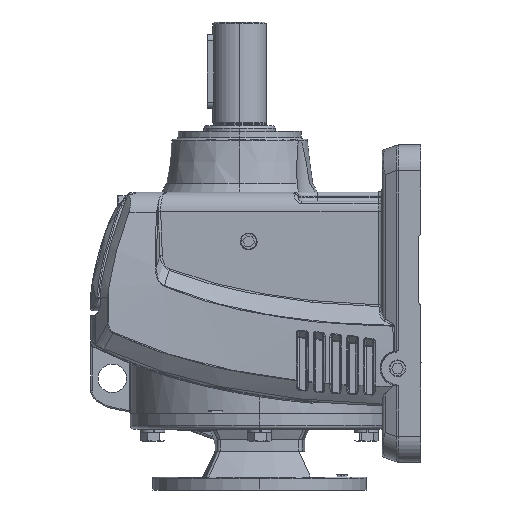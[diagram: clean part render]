
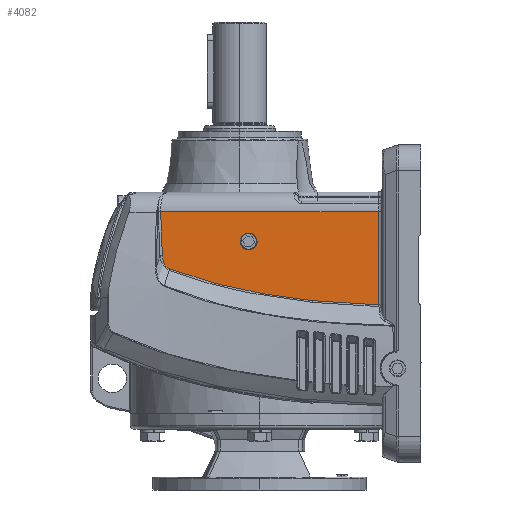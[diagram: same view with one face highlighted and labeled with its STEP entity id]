
A CAD part, left-side view. The second image highlights one B-rep face of the part: STEP entity #4082.
In plain terms, the highlighted planar face has unit normal (-1, 0, 0).
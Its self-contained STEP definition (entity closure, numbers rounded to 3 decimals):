
#4082 = ADVANCED_FACE ( 'NONE', ( #57099, #57084 ), #43669, .T. ) ;
#4805 = CARTESIAN_POINT ( 'NONE',  ( -100., 198.045, -54.652 ) ) ;
#4806 = CARTESIAN_POINT ( 'NONE',  ( -100., 37., -82.481 ) ) ;
#4965 = CARTESIAN_POINT ( 'NONE',  ( -100., 203.682, -44.307 ) ) ;
#4998 = CARTESIAN_POINT ( 'NONE',  ( -100., 87.405, -79.257 ) ) ;
#5033 = CARTESIAN_POINT ( 'NONE',  ( -100., 137., -27.256 ) ) ;
#8129 = EDGE_CURVE ( 'NONE', #10191, #10423, #30689, .T. ) ;
#8949 = EDGE_CURVE ( 'NONE', #10752, #11105, #49633, .T. ) ;
#8957 = EDGE_CURVE ( 'NONE', #53436, #11108, #49637, .T. ) ;
#9046 = EDGE_CURVE ( 'NONE', #11108, #11110, #49667, .T. ) ;
#9080 = EDGE_CURVE ( 'NONE', #11110, #10752, #49677, .T. ) ;
#10191 = VERTEX_POINT ( 'NONE', #12052 ) ;
#10423 = VERTEX_POINT ( 'NONE', #5033 ) ;
#10752 = VERTEX_POINT ( 'NONE', #4998 ) ;
#11105 = VERTEX_POINT ( 'NONE', #4806 ) ;
#11108 = VERTEX_POINT ( 'NONE', #4965 ) ;
#11110 = VERTEX_POINT ( 'NONE', #4805 ) ;
#12052 = CARTESIAN_POINT ( 'NONE',  ( -100., 137., -39.744 ) ) ;
#12944 = CARTESIAN_POINT ( 'NONE',  ( -100., 161.971, -66.19 ) ) ;
#13055 = CARTESIAN_POINT ( 'NONE',  ( -100., 198.045, -54.652 ) ) ;
#13056 = CARTESIAN_POINT ( 'NONE',  ( -100., 198.535, -54.461 ) ) ;
#13076 = CARTESIAN_POINT ( 'NONE',  ( -100., 203.682, -44.307 ) ) ;
#13079 = CARTESIAN_POINT ( 'NONE',  ( -100., 202.756, -49.376 ) ) ;
#13080 = CARTESIAN_POINT ( 'NONE',  ( -100., 203.079, -48.387 ) ) ;
#13081 = CARTESIAN_POINT ( 'NONE',  ( -100., 203.212, -47.887 ) ) ;
#13082 = CARTESIAN_POINT ( 'NONE',  ( -100., 203.533, -46.375 ) ) ;
#13083 = CARTESIAN_POINT ( 'NONE',  ( -100., 203.649, -45.348 ) ) ;
#13084 = CARTESIAN_POINT ( 'NONE',  ( -100., 201.284, -52.115 ) ) ;
#13085 = CARTESIAN_POINT ( 'NONE',  ( -100., 201.438, -51.903 ) ) ;
#13086 = CARTESIAN_POINT ( 'NONE',  ( -100., 201.871, -51.253 ) ) ;
#13087 = CARTESIAN_POINT ( 'NONE',  ( -100., 202.123, -50.801 ) ) ;
#13088 = CARTESIAN_POINT ( 'NONE',  ( -100., 202.565, -49.863 ) ) ;
#13089 = CARTESIAN_POINT ( 'NONE',  ( -100., 198.995, -54.215 ) ) ;
#13090 = CARTESIAN_POINT ( 'NONE',  ( -100., 199.86, -53.62 ) ) ;
#13091 = CARTESIAN_POINT ( 'NONE',  ( -100., 200.252, -53.281 ) ) ;
#13092 = CARTESIAN_POINT ( 'NONE',  ( -100., 200.789, -52.719 ) ) ;
#13093 = CARTESIAN_POINT ( 'NONE',  ( -100., 200.959, -52.523 ) ) ;
#13374 = CARTESIAN_POINT ( 'NONE',  ( -100., 87.405, -79.257 ) ) ;
#13563 = CARTESIAN_POINT ( 'NONE',  ( -100., 148.144, -69.531 ) ) ;
#13565 = CARTESIAN_POINT ( 'NONE',  ( -100., 152.767, -68.471 ) ) ;
#13572 = CARTESIAN_POINT ( 'NONE',  ( -100., 87.405, -79.257 ) ) ;
#13575 = CARTESIAN_POINT ( 'NONE',  ( -100., 79.026, -80.13 ) ) ;
#13577 = CARTESIAN_POINT ( 'NONE',  ( -100., 70.635, -80.826 ) ) ;
#13579 = CARTESIAN_POINT ( 'NONE',  ( -100., 53.831, -81.862 ) ) ;
#13580 = CARTESIAN_POINT ( 'NONE',  ( -100., 58.034, -81.633 ) ) ;
#13582 = CARTESIAN_POINT ( 'NONE',  ( -100., 41.211, -82.377 ) ) ;
#13585 = CARTESIAN_POINT ( 'NONE',  ( -100., 45.419, -82.234 ) ) ;
#13590 = CARTESIAN_POINT ( 'NONE',  ( -100., 47.523, -82.148 ) ) ;
#13591 = CARTESIAN_POINT ( 'NONE',  ( -100., 39.106, -82.435 ) ) ;
#13597 = CARTESIAN_POINT ( 'NONE',  ( -100., 166.549, -64.972 ) ) ;
#13601 = CARTESIAN_POINT ( 'NONE',  ( -100., 37., -82.481 ) ) ;
#13617 = CARTESIAN_POINT ( 'NONE',  ( -100., 203.682, -44.307 ) ) ;
#13619 = CARTESIAN_POINT ( 'NONE',  ( -100., 204.04, -33.035 ) ) ;
#13621 = CARTESIAN_POINT ( 'NONE',  ( -100., 204.477, -21.766 ) ) ;
#13622 = CARTESIAN_POINT ( 'NONE',  ( -100., 204.975, -10.5 ) ) ;
#13709 = CARTESIAN_POINT ( 'NONE',  ( -100., 175.651, -62.358 ) ) ;
#13712 = CARTESIAN_POINT ( 'NONE',  ( -100., 180.175, -60.964 ) ) ;
#13713 = CARTESIAN_POINT ( 'NONE',  ( -100., 189.16, -57.971 ) ) ;
#13714 = CARTESIAN_POINT ( 'NONE',  ( -100., 193.622, -56.374 ) ) ;
#13716 = CARTESIAN_POINT ( 'NONE',  ( -100., 198.045, -54.652 ) ) ;
#13764 = CARTESIAN_POINT ( 'NONE',  ( -100., 96.835, -78.274 ) ) ;
#13765 = CARTESIAN_POINT ( 'NONE',  ( -100., 106.229, -77.07 ) ) ;
#13766 = CARTESIAN_POINT ( 'NONE',  ( -100., 120.258, -74.902 ) ) ;
#13767 = CARTESIAN_POINT ( 'NONE',  ( -100., 124.924, -74.118 ) ) ;
#13768 = CARTESIAN_POINT ( 'NONE',  ( -100., 134.235, -72.42 ) ) ;
#13772 = CARTESIAN_POINT ( 'NONE',  ( -100., 138.88, -71.506 ) ) ;
#14246 = CARTESIAN_POINT ( 'NONE',  ( -100., 204.975, -10.5 ) ) ;
#14346 = CARTESIAN_POINT ( 'NONE',  ( -100., 37., -10.5 ) ) ;
#18407 = CARTESIAN_POINT ( 'NONE',  ( -100., 4.772, -10.5 ) ) ;
#18408 = DIRECTION ( 'NONE',  ( 0., 1., 0. ) ) ;
#20420 = DIRECTION ( 'NONE',  ( 0., 0., 1. ) ) ;
#20421 = DIRECTION ( 'NONE',  ( -1., 0., 0. ) ) ;
#20423 = CARTESIAN_POINT ( 'NONE',  ( -100., 137., -33.5 ) ) ;
#29065 = EDGE_LOOP ( 'NONE', ( #53699, #53697, #53704, #53682, #53701, #53692 ) ) ;
#29429 = EDGE_LOOP ( 'NONE', ( #53694, #53702 ) ) ;
#30262 = VECTOR ( 'NONE', #18408, 1000. ) ;
#30689 = CIRCLE ( 'NONE', #30699, 6.244 ) ;
#30699 = AXIS2_PLACEMENT_3D ( 'NONE', #20423, #20421, #20420 ) ;
#33487 = AXIS2_PLACEMENT_3D ( 'NONE', #44539, #43674, #44540 ) ;
#39842 = LINE ( 'NONE', #44959, #52967 ) ;
#40783 = LINE ( 'NONE', #18407, #30262 ) ;
#42024 = EDGE_CURVE ( 'NONE', #11105, #53715, #39842, .T. ) ;
#42071 = EDGE_CURVE ( 'NONE', #10423, #10191, #52954, .T. ) ;
#43669 = PLANE ( 'NONE',  #33487 ) ;
#43674 = DIRECTION ( 'NONE',  ( -1., 0., 0. ) ) ;
#44539 = CARTESIAN_POINT ( 'NONE',  ( -100., 4.772, -95.607 ) ) ;
#44540 = DIRECTION ( 'NONE',  ( 0., 0., 1. ) ) ;
#44949 = DIRECTION ( 'NONE',  ( 0., 0., 1. ) ) ;
#44959 = CARTESIAN_POINT ( 'NONE',  ( -100., 37., -95.607 ) ) ;
#45101 = CARTESIAN_POINT ( 'NONE',  ( -100., 137., -33.5 ) ) ;
#45103 = DIRECTION ( 'NONE',  ( -1., 0., 0. ) ) ;
#45105 = DIRECTION ( 'NONE',  ( 0., 0., 1. ) ) ;
#49633 = B_SPLINE_CURVE_WITH_KNOTS ( 'NONE', 3,
 ( #13572, #13575, #13577, #13580, #13579, #13590, #13585, #13582, #13591, #13601 ),
 .UNSPECIFIED., .F., .F.,
 ( 4, 2, 2, 2, 4 ),
 ( 0., 0.025, 0.038, 0.044, 0.051 ),
 .UNSPECIFIED. ) ;
#49637 = B_SPLINE_CURVE_WITH_KNOTS ( 'NONE', 3,
 ( #13622, #13621, #13619, #13617 ),
 .UNSPECIFIED., .F., .F.,
 ( 4, 4 ),
 ( 0., 0.034 ),
 .UNSPECIFIED. ) ;
#49667 = B_SPLINE_CURVE_WITH_KNOTS ( 'NONE', 3,
 ( #13076, #13083, #13082, #13081, #13080, #13079, #13088, #13087, #13086, #13085, #13084, #13093, #13092, #13091, #13090, #13089, #13056, #13055 ),
 .UNSPECIFIED., .F., .F.,
 ( 4, 2, 2, 2, 2, 2, 2, 2, 4 ),
 ( 0., 0.003, 0.005, 0.006, 0.008, 0.009, 0.009, 0.011, 0.012 ),
 .UNSPECIFIED. ) ;
#49677 = B_SPLINE_CURVE_WITH_KNOTS ( 'NONE', 3,
 ( #13716, #13714, #13713, #13712, #13709, #13597, #12944, #13565, #13563, #13772, #13768, #13767, #13766, #13765, #13764, #13374 ),
 .UNSPECIFIED., .F., .F.,
 ( 4, 2, 2, 2, 2, 2, 2, 4 ),
 ( 0., 0.014, 0.028, 0.043, 0.057, 0.071, 0.085, 0.114 ),
 .UNSPECIFIED. ) ;
#52931 = AXIS2_PLACEMENT_3D ( 'NONE', #45101, #45103, #45105 ) ;
#52954 = CIRCLE ( 'NONE', #52931, 6.244 ) ;
#52967 = VECTOR ( 'NONE', #44949, 1000. ) ;
#53436 = VERTEX_POINT ( 'NONE', #14246 ) ;
#53682 = ORIENTED_EDGE ( 'NONE', *, *, #9080, .T. ) ;
#53692 = ORIENTED_EDGE ( 'NONE', *, *, #42024, .T. ) ;
#53694 = ORIENTED_EDGE ( 'NONE', *, *, #42071, .F. ) ;
#53697 = ORIENTED_EDGE ( 'NONE', *, *, #8957, .T. ) ;
#53699 = ORIENTED_EDGE ( 'NONE', *, *, #54636, .T. ) ;
#53701 = ORIENTED_EDGE ( 'NONE', *, *, #8949, .T. ) ;
#53702 = ORIENTED_EDGE ( 'NONE', *, *, #8129, .F. ) ;
#53704 = ORIENTED_EDGE ( 'NONE', *, *, #9046, .T. ) ;
#53715 = VERTEX_POINT ( 'NONE', #14346 ) ;
#54636 = EDGE_CURVE ( 'NONE', #53715, #53436, #40783, .T. ) ;
#57084 = FACE_OUTER_BOUND ( 'NONE', #29065, .T. ) ;
#57099 = FACE_BOUND ( 'NONE', #29429, .T. ) ;
